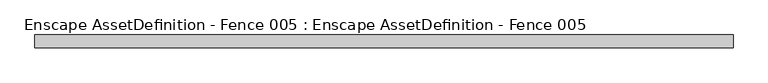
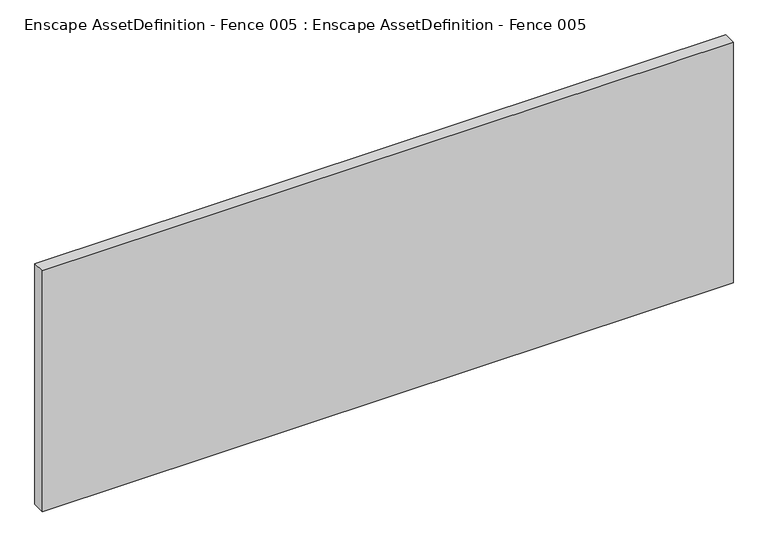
"""IFC4 building model written with IfcOpenShell, lengths in millimetres: geographic element geometry, Enscape AssetDefinition - Fence 005 : Enscape AssetDefinition - Fence 005."""

from ifc_helpers import new_model, si_unit, origin, place, context, project, spatial, triangles, source, transform, mapped, element, save


def enscape_assetdefinition_fence_005_enscape_assetdefinition_7b85ec42(model_context):
    return source(origin(), model_context, "Body", "Tessellation", [
        triangles([(993.4230108, -9.1319996, 731.6910215), (993.4230108, 27.2310005, 731.6910215), (-992.5939917, 27.2310005, 731.6910215), (-992.5939917, -9.1319996, 731.6910215), (-992.5939917, -9.1319996, 0.0), (-992.5939917, 27.2310005, 0.0), (993.4230108, -9.1319996, 0.0), (993.4230108, 27.2310005, 0.0)], [[7, 6, 8], [5, 6, 7], [2, 8, 6], [3, 2, 6], [1, 7, 8], [2, 1, 8], [4, 5, 7], [1, 4, 7], [3, 6, 5], [4, 3, 5], [1, 2, 3], [4, 1, 3]]),
    ])


if __name__ == "__main__":
    model = new_model("IFC4")
    model_context = context("Model", 3, world=origin())
    ifc_project = project(units=[si_unit("LENGTHUNIT", "METRE", prefix="MILLI")], contexts=[model_context])
    site = spatial("IfcSite", under=ifc_project)
    building = spatial("IfcBuilding", under=site)
    placement = place(None, origin())
    enscape_assetdefinition_fence_005_enscape_assetdefinition_shape = enscape_assetdefinition_fence_005_enscape_assetdefinition_7b85ec42(model_context)
    element("IfcGeographicElement", 1, ObjectType="Enscape AssetDefinition - Fence 005 : Enscape AssetDefinition - Fence 005", at=placement, inside=building, context=model_context, shape_type="MappedRepresentation", body=[
        mapped(enscape_assetdefinition_fence_005_enscape_assetdefinition_shape, transform((0.0, 0.0, 0.0), x_axis=(1.0, 0.0, 0.0), y_axis=(0.0, 1.0, 0.0), z_axis=(0.0, 0.0, 1.0))),
    ])
    save(model, "model.ifc")
